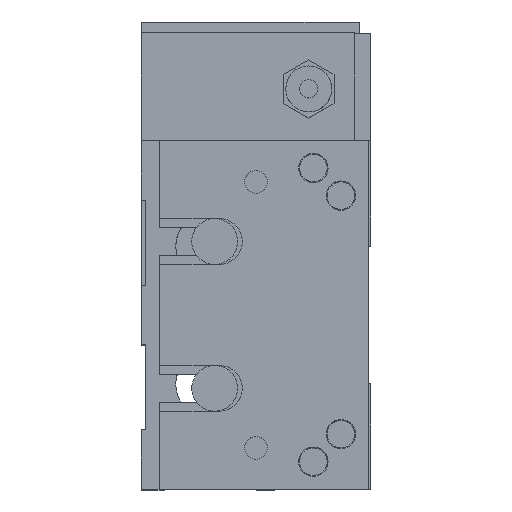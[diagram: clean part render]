
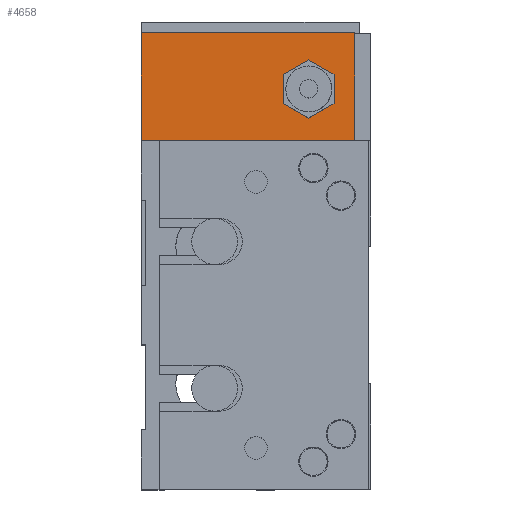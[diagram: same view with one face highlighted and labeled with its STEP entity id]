
A CAD part, top view. The second image highlights one B-rep face of the part: STEP entity #4658.
In plain terms, the highlighted planar face has unit normal (0, 0, 1).
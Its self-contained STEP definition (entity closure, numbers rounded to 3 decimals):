
#4549 = EDGE_CURVE ( 'NONE', #21784, #21783, #25958, .T. ) ;
#4598 = EDGE_CURVE ( 'NONE', #21876, #21879, #26110, .T. ) ;
#4599 = EDGE_LOOP ( 'NONE', ( #4678, #21342 ) ) ;
#4658 = ADVANCED_FACE ( 'NONE', ( #26190, #26195 ), #26171, .F. ) ;
#4659 = ORIENTED_EDGE ( 'NONE', *, *, #21813, .T. ) ;
#4678 = ORIENTED_EDGE ( 'NONE', *, *, #4549, .T. ) ;
#7107 = CARTESIAN_POINT ( 'NONE',  ( 7.25, 36.5, 13. ) ) ;
#7142 = AXIS2_PLACEMENT_3D ( 'NONE', #7193, #7192, #7191 ) ;
#7144 = CARTESIAN_POINT ( 'NONE',  ( 0., 0., 13. ) ) ;
#7150 = CIRCLE ( 'NONE', #7142, 5. ) ;
#7152 = CARTESIAN_POINT ( 'NONE',  ( 17.25, 36.5, 13. ) ) ;
#7169 = DIRECTION ( 'NONE',  ( 0., -1., 0. ) ) ;
#7173 = VECTOR ( 'NONE', #7187, 1000. ) ;
#7175 = CARTESIAN_POINT ( 'NONE',  ( 0., 0., 13. ) ) ;
#7176 = LINE ( 'NONE', #7175, #7177 ) ;
#7177 = VECTOR ( 'NONE', #7169, 1000. ) ;
#7180 = LINE ( 'NONE', #7188, #7173 ) ;
#7187 = DIRECTION ( 'NONE',  ( 1., 0., 0. ) ) ;
#7188 = CARTESIAN_POINT ( 'NONE',  ( 0., 0., 13. ) ) ;
#7191 = DIRECTION ( 'NONE',  ( -1., 0., 0. ) ) ;
#7192 = DIRECTION ( 'NONE',  ( 0., 0., -1. ) ) ;
#7193 = CARTESIAN_POINT ( 'NONE',  ( 12.25, 36.5, 13. ) ) ;
#7276 = DIRECTION ( 'NONE',  ( 0., 1., 0. ) ) ;
#7277 = VECTOR ( 'NONE', #7276, 1000. ) ;
#7278 = CARTESIAN_POINT ( 'NONE',  ( 24.5, 0., 13. ) ) ;
#7288 = LINE ( 'NONE', #7278, #7277 ) ;
#7299 = CARTESIAN_POINT ( 'NONE',  ( 24.5, 0., 13. ) ) ;
#7300 = CARTESIAN_POINT ( 'NONE',  ( 24.5, 46.5, 13. ) ) ;
#7302 = CARTESIAN_POINT ( 'NONE',  ( 0., 46.5, 13. ) ) ;
#20747 = ORIENTED_EDGE ( 'NONE', *, *, #21853, .T. ) ;
#21325 = EDGE_LOOP ( 'NONE', ( #4659, #21339, #20747, #21927 ) ) ;
#21339 = ORIENTED_EDGE ( 'NONE', *, *, #21807, .T. ) ;
#21342 = ORIENTED_EDGE ( 'NONE', *, *, #21788, .T. ) ;
#21783 = VERTEX_POINT ( 'NONE', #7152 ) ;
#21784 = VERTEX_POINT ( 'NONE', #7107 ) ;
#21788 = EDGE_CURVE ( 'NONE', #21783, #21784, #7150, .T. ) ;
#21807 = EDGE_CURVE ( 'NONE', #21810, #21874, #7180, .T. ) ;
#21810 = VERTEX_POINT ( 'NONE', #7144 ) ;
#21813 = EDGE_CURVE ( 'NONE', #21879, #21810, #7176, .T. ) ;
#21853 = EDGE_CURVE ( 'NONE', #21874, #21876, #7288, .T. ) ;
#21874 = VERTEX_POINT ( 'NONE', #7299 ) ;
#21876 = VERTEX_POINT ( 'NONE', #7300 ) ;
#21879 = VERTEX_POINT ( 'NONE', #7302 ) ;
#21927 = ORIENTED_EDGE ( 'NONE', *, *, #4598, .T. ) ;
#25958 = CIRCLE ( 'NONE', #25967, 5. ) ;
#25967 = AXIS2_PLACEMENT_3D ( 'NONE', #26013, #26012, #26011 ) ;
#26011 = DIRECTION ( 'NONE',  ( -1., 0., 0. ) ) ;
#26012 = DIRECTION ( 'NONE',  ( 0., 0., -1. ) ) ;
#26013 = CARTESIAN_POINT ( 'NONE',  ( 12.25, 36.5, 13. ) ) ;
#26050 = VECTOR ( 'NONE', #26104, 1000. ) ;
#26104 = DIRECTION ( 'NONE',  ( -1., 0., 0. ) ) ;
#26109 = CARTESIAN_POINT ( 'NONE',  ( 0., 46.5, 13. ) ) ;
#26110 = LINE ( 'NONE', #26109, #26050 ) ;
#26171 = PLANE ( 'NONE',  #26191 ) ;
#26183 = DIRECTION ( 'NONE',  ( -1., 0., 0. ) ) ;
#26184 = DIRECTION ( 'NONE',  ( 0., 0., -1. ) ) ;
#26189 = CARTESIAN_POINT ( 'NONE',  ( 0., 46.5, 13. ) ) ;
#26190 = FACE_BOUND ( 'NONE', #4599, .T. ) ;
#26191 = AXIS2_PLACEMENT_3D ( 'NONE', #26189, #26184, #26183 ) ;
#26195 = FACE_OUTER_BOUND ( 'NONE', #21325, .T. ) ;
